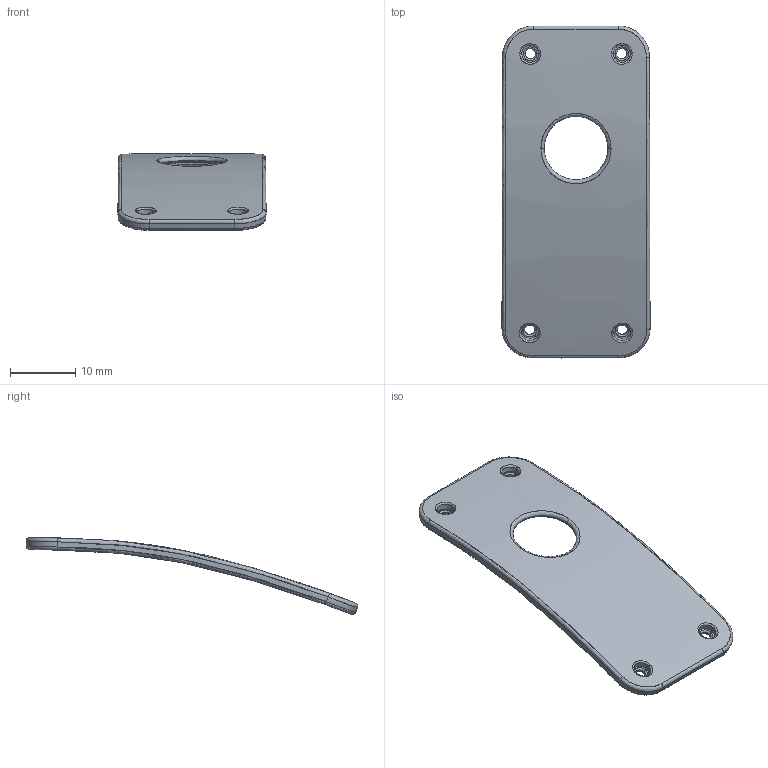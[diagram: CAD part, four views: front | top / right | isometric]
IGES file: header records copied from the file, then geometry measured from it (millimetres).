
Start section: Speaker 2 inch..SLDPRT - PrototypeComponentType Speaker 2 inch..SLDPRT - PrototypeComponentType Speaker 2 inch..SLDPRT - PrototypeComponentType Speaker 2 inch..SLDPRT - PrototypeComponentType 10 rocker-switch-KCD1..SLDPRT - PrototypeComponentType 10 rocker-switch-KCD1..SLDPRT - PrototypeComponentType 10 rocker-switch-KCD1..SLDPRT - PrototypeComponentType 10 rocker-switch-KCD1..SLDPRT - PrototypeCo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
Global section: file name: C:\Users\Victor\Desktop\TapaAsa.igs; native system: Rhinoceros ( Feb 27 2019 ); preprocessor: Trout Lake IGES 012 Feb 27 2019; date: 240310.230332; units: millimetre
Bounding box: 22.77 x 51.02 x 11.78 mm (x, y, z)
Surface area: 2433.9 mm2 (no closed solid volume)
Topology: 0 solids, 0 shells, 83 faces, 673 edges, 673 vertices
Faces by surface type: bspline 83
